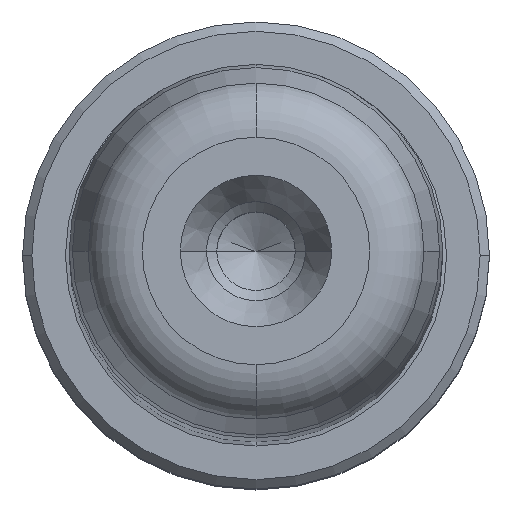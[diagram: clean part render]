
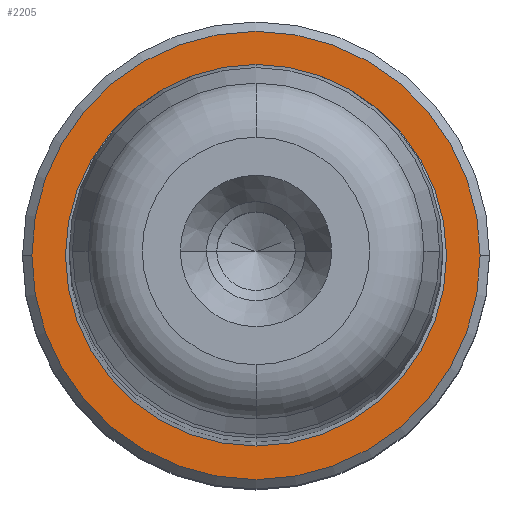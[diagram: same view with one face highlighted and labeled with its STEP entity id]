
A CAD part, top view. The second image highlights one B-rep face of the part: STEP entity #2205.
In plain terms, the highlighted planar face has unit normal (0, 0, 1).
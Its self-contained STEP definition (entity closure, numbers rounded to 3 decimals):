
#946=CARTESIAN_POINT('',(0.0,-10.2,3.3));
#947=VERTEX_POINT('',#946);
#955=CARTESIAN_POINT('',(10.2,0.,3.3));
#956=VERTEX_POINT('',#955);
#957=CARTESIAN_POINT('',(0.0,0.,3.3));
#958=DIRECTION('',(0.0,0.0,1.0));
#959=DIRECTION('',(1.0,0.0,0.0));
#960=AXIS2_PLACEMENT_3D('',#957,#958,#959);
#961=CIRCLE('',#960,10.2);
#962=EDGE_CURVE('',#947,#956,#961,.T.);
#964=CARTESIAN_POINT('',(0.,10.2,3.3));
#965=VERTEX_POINT('',#964);
#966=CARTESIAN_POINT('',(0.0,0.,3.3));
#967=DIRECTION('',(0.0,0.0,1.0));
#968=DIRECTION('',(1.0,0.0,0.0));
#969=AXIS2_PLACEMENT_3D('',#966,#967,#968);
#970=CIRCLE('',#969,10.2);
#971=EDGE_CURVE('',#956,#965,#970,.T.);
#998=CARTESIAN_POINT('',(12.0,0.,3.3));
#999=VERTEX_POINT('',#998);
#1008=CARTESIAN_POINT('',(-12.,0.,3.3));
#1009=VERTEX_POINT('',#1008);
#1010=CARTESIAN_POINT('',(0.0,0.,3.3));
#1011=DIRECTION('',(0.0,0.0,1.0));
#1012=DIRECTION('',(1.0,0.0,0.0));
#1013=AXIS2_PLACEMENT_3D('',#1010,#1011,#1012);
#1014=CIRCLE('',#1013,12.0);
#1015=EDGE_CURVE('',#1009,#999,#1014,.T.);
#2175=CARTESIAN_POINT('',(0.0,0.,3.3));
#2176=DIRECTION('',(0.0,0.0,1.0));
#2177=DIRECTION('',(1.0,0.0,0.0));
#2178=AXIS2_PLACEMENT_3D('',#2175,#2176,#2177);
#2179=CIRCLE('',#2178,12.0);
#2180=EDGE_CURVE('',#999,#1009,#2179,.T.);
#2185=CARTESIAN_POINT('',(11.1,0.,3.3));
#2186=DIRECTION('',(0.0,0.0,1.0));
#2187=DIRECTION('',(0.0,-1.0,0.0));
#2188=AXIS2_PLACEMENT_3D('',#2185,#2186,#2187);
#2189=PLANE('',#2188);
#2190=ORIENTED_EDGE('',*,*,#2180,.T.);
#2191=ORIENTED_EDGE('',*,*,#1015,.T.);
#2192=EDGE_LOOP('',(#2190,#2191));
#2193=FACE_OUTER_BOUND('',#2192,.T.);
#2194=ORIENTED_EDGE('',*,*,#971,.F.);
#2195=ORIENTED_EDGE('',*,*,#962,.F.);
#2196=CARTESIAN_POINT('',(0.0,0.,3.3));
#2197=DIRECTION('',(0.0,0.0,1.0));
#2198=DIRECTION('',(1.0,0.0,0.0));
#2199=AXIS2_PLACEMENT_3D('',#2196,#2197,#2198);
#2200=CIRCLE('',#2199,10.2);
#2201=EDGE_CURVE('',#965,#947,#2200,.T.);
#2202=ORIENTED_EDGE('',*,*,#2201,.F.);
#2203=EDGE_LOOP('',(#2194,#2195,#2202));
#2204=FACE_BOUND('',#2203,.T.);
#2205=ADVANCED_FACE('',(#2193,#2204),#2189,.T.);
